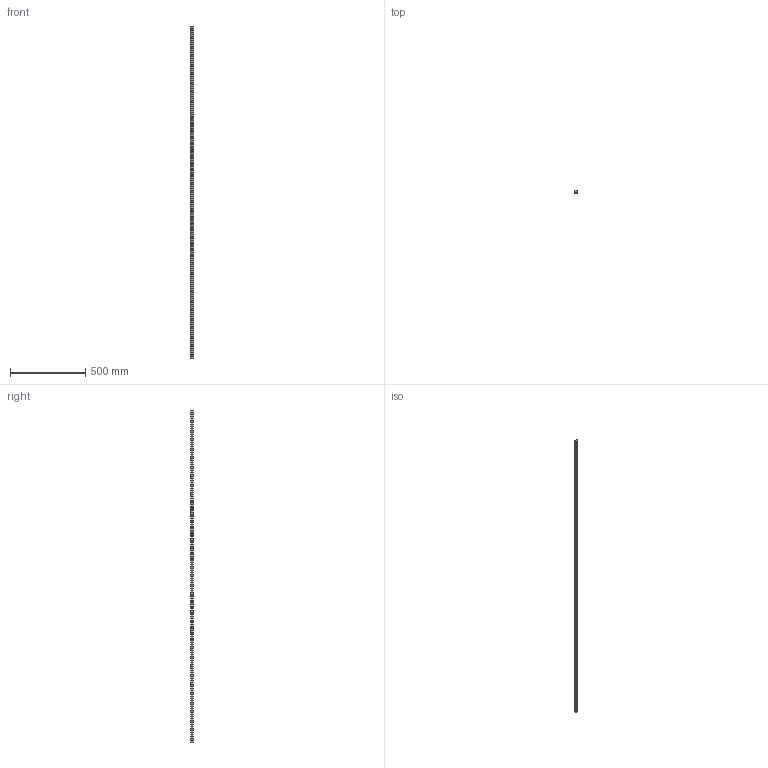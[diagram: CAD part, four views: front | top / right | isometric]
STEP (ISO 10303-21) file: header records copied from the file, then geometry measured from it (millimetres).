
FILE_DESCRIPTION (( 'STEP AP203' ), '1' );
FILE_NAME ('L1016.BL20-2200.step', '2019-06-12T11:52:06', ( '' ), ( '' ), 'SwSTEP 2.0', 'SolidWorks 2017', '' );
FILE_SCHEMA (( 'CONFIG_CONTROL_DESIGN' ));
Length unit declared in the file: millimetre
Products named in the file (1): L1016.BL20-2200
Bounding box: 20 x 16.3 x 2200 mm (x, y, z)
Volume: 611471.9 mm3; surface area: 177133.3 mm2
Topology: 1 solids, 1 shells, 211 faces, 516 edges, 344 vertices
Faces by surface type: cylinder 152, plane 59
Entity records: 6599 total; most frequent: DIRECTION 1244, CARTESIAN_POINT 1072, ORIENTED_EDGE 1032, EDGE_CURVE 516, AXIS2_PLACEMENT_3D 516, VERTEX_POINT 344, EDGE_LOOP 322, CIRCLE 304
